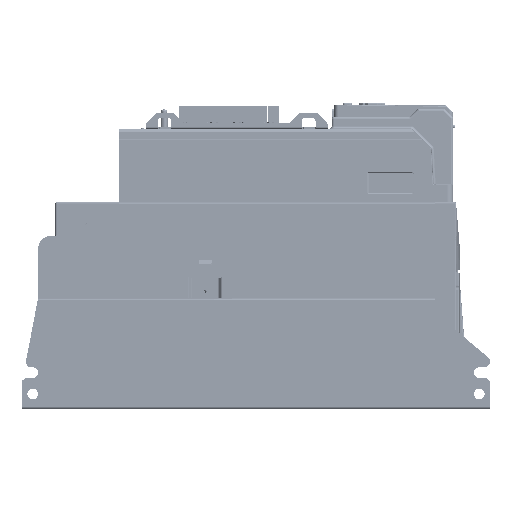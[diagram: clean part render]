
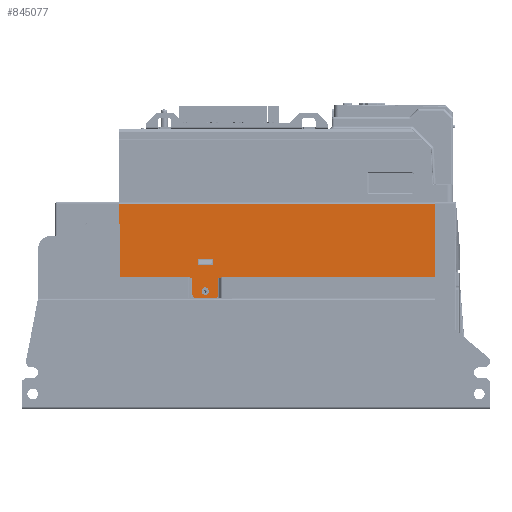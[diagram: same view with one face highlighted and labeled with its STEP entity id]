
A CAD part, left-side view. The second image highlights one B-rep face of the part: STEP entity #845077.
In plain terms, the highlighted planar face has unit normal (-1, 0, 0).
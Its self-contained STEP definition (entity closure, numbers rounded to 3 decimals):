
#844899=DIRECTION('',(0.,0.,-1.));
#844900=VECTOR('',#844899,12.5);
#844901=CARTESIAN_POINT('',(-73.75,0.5,-1.15));
#844902=LINE('',#844901,#844900);
#844903=CARTESIAN_POINT('',(-73.75,0.5,-13.65));
#844904=CARTESIAN_POINT('',(-73.75,0.506,-13.928));
#844905=CARTESIAN_POINT('',(-73.75,0.606,-14.438));
#844906=CARTESIAN_POINT('',(-73.75,1.049,-15.101));
#844907=CARTESIAN_POINT('',(-73.75,1.712,-15.544));
#844908=CARTESIAN_POINT('',(-73.75,2.222,-15.644));
#844909=CARTESIAN_POINT('',(-73.75,2.5,-15.65));
#844911=DIRECTION('',(0.,1.,0.));
#844912=VECTOR('',#844911,15.);
#844913=CARTESIAN_POINT('',(-73.75,2.5,-15.65));
#844914=LINE('',#844913,#844912);
#844915=CARTESIAN_POINT('',(-73.75,17.5,-15.65));
#844916=CARTESIAN_POINT('',(-73.75,17.778,-15.644));
#844917=CARTESIAN_POINT('',(-73.75,18.288,-15.544));
#844918=CARTESIAN_POINT('',(-73.75,18.951,-15.101));
#844919=CARTESIAN_POINT('',(-73.75,19.394,-14.438));
#844920=CARTESIAN_POINT('',(-73.75,19.494,-13.928));
#844921=CARTESIAN_POINT('',(-73.75,19.5,-13.65));
#844923=DIRECTION('',(0.,0.,1.));
#844924=VECTOR('',#844923,12.5);
#844925=CARTESIAN_POINT('',(-73.75,19.5,-13.65));
#844926=LINE('',#844925,#844924);
#844927=DIRECTION('',(0.,1.,0.));
#844928=VECTOR('',#844927,55.3);
#844929=CARTESIAN_POINT('',(-73.75,19.5,-1.15));
#844930=LINE('',#844929,#844928);
#844931=DIRECTION('',(0.,0.,1.));
#844932=VECTOR('',#844931,55.65);
#844933=CARTESIAN_POINT('',(-73.75,74.8,-1.15));
#844934=LINE('',#844933,#844932);
#844935=DIRECTION('',(0.,-1.,0.));
#844936=VECTOR('',#844935,236.8);
#844937=CARTESIAN_POINT('',(-73.75,74.8,54.5));
#844938=LINE('',#844937,#844936);
#844939=DIRECTION('',(0.,0.,-1.));
#844940=VECTOR('',#844939,55.65);
#844941=CARTESIAN_POINT('',(-73.75,-162.,54.5));
#844942=LINE('',#844941,#844940);
#844943=DIRECTION('',(0.,1.,0.));
#844944=VECTOR('',#844943,162.5);
#844945=CARTESIAN_POINT('',(-73.75,-162.,-1.15));
#844946=LINE('',#844945,#844944);
#844947=CARTESIAN_POINT('',(-73.75,10.,-13.325));
#844948=CARTESIAN_POINT('',(-73.75,9.701,-13.322));
#844949=CARTESIAN_POINT('',(-73.75,9.137,-13.234));
#844950=CARTESIAN_POINT('',(-73.75,8.355,-12.835));
#844951=CARTESIAN_POINT('',(-73.75,7.74,-12.221));
#844952=CARTESIAN_POINT('',(-73.75,7.341,-11.438));
#844953=CARTESIAN_POINT('',(-73.75,7.253,-10.874));
#844954=CARTESIAN_POINT('',(-73.75,7.25,-10.575));
#844956=CARTESIAN_POINT('',(-73.75,7.25,-10.575));
#844957=CARTESIAN_POINT('',(-73.75,7.253,-10.276));
#844958=CARTESIAN_POINT('',(-73.75,7.341,-9.712));
#844959=CARTESIAN_POINT('',(-73.75,7.74,-8.93));
#844960=CARTESIAN_POINT('',(-73.75,8.354,-8.315));
#844961=CARTESIAN_POINT('',(-73.75,9.137,-7.916));
#844962=CARTESIAN_POINT('',(-73.75,9.701,-7.828));
#844963=CARTESIAN_POINT('',(-73.75,10.,-7.825));
#844965=CARTESIAN_POINT('',(-73.75,10.,-7.825));
#844966=CARTESIAN_POINT('',(-73.75,10.299,-7.828));
#844967=CARTESIAN_POINT('',(-73.75,10.863,-7.916));
#844968=CARTESIAN_POINT('',(-73.75,11.645,-8.315));
#844969=CARTESIAN_POINT('',(-73.75,12.26,-8.929));
#844970=CARTESIAN_POINT('',(-73.75,12.659,-9.712));
#844971=CARTESIAN_POINT('',(-73.75,12.747,-10.276));
#844972=CARTESIAN_POINT('',(-73.75,12.75,-10.575));
#844974=CARTESIAN_POINT('',(-73.75,12.75,-10.575));
#844975=CARTESIAN_POINT('',(-73.75,12.747,-10.874));
#844976=CARTESIAN_POINT('',(-73.75,12.659,-11.438));
#844977=CARTESIAN_POINT('',(-73.75,12.26,-12.22));
#844978=CARTESIAN_POINT('',(-73.75,11.646,-12.835));
#844979=CARTESIAN_POINT('',(-73.75,10.863,-13.234));
#844980=CARTESIAN_POINT('',(-73.75,10.299,-13.322));
#844981=CARTESIAN_POINT('',(-73.75,10.,-13.325));
#844983=DIRECTION('',(0.,1.,0.));
#844984=VECTOR('',#844983,11.);
#844985=CARTESIAN_POINT('',(-73.75,4.5,13.35));
#844986=LINE('',#844985,#844984);
#844987=DIRECTION('',(0.,0.,-1.));
#844988=VECTOR('',#844987,4.75);
#844989=CARTESIAN_POINT('',(-73.75,15.5,13.35));
#844990=LINE('',#844989,#844988);
#844991=DIRECTION('',(0.,-1.,0.));
#844992=VECTOR('',#844991,11.);
#844993=CARTESIAN_POINT('',(-73.75,15.5,8.6));
#844994=LINE('',#844993,#844992);
#844995=DIRECTION('',(0.,0.,1.));
#844996=VECTOR('',#844995,4.75);
#844997=CARTESIAN_POINT('',(-73.75,4.5,8.6));
#844998=LINE('',#844997,#844996);
#844999=CARTESIAN_POINT('',(-73.75,0.5,-13.65));
#845000=CARTESIAN_POINT('',(-73.75,0.5,-1.15));
#845001=VERTEX_POINT('',#844999);
#845002=VERTEX_POINT('',#845000);
#845003=CARTESIAN_POINT('',(-73.75,-162.,-1.15));
#845004=VERTEX_POINT('',#845003);
#845005=CARTESIAN_POINT('',(-73.75,-162.,54.5));
#845006=VERTEX_POINT('',#845005);
#845007=CARTESIAN_POINT('',(-73.75,74.8,54.5));
#845008=VERTEX_POINT('',#845007);
#845009=CARTESIAN_POINT('',(-73.75,74.8,-1.15));
#845010=VERTEX_POINT('',#845009);
#845011=CARTESIAN_POINT('',(-73.75,19.5,-1.15));
#845012=VERTEX_POINT('',#845011);
#845013=CARTESIAN_POINT('',(-73.75,19.5,-13.65));
#845014=VERTEX_POINT('',#845013);
#845015=VERTEX_POINT('',#844915);
#845016=CARTESIAN_POINT('',(-73.75,2.5,-15.65));
#845017=VERTEX_POINT('',#845016);
#845018=VERTEX_POINT('',#844954);
#845019=VERTEX_POINT('',#844947);
#845020=VERTEX_POINT('',#844974);
#845021=VERTEX_POINT('',#844965);
#845022=CARTESIAN_POINT('',(-73.75,15.5,13.35));
#845023=CARTESIAN_POINT('',(-73.75,4.5,13.35));
#845024=VERTEX_POINT('',#845022);
#845025=VERTEX_POINT('',#845023);
#845026=CARTESIAN_POINT('',(-73.75,4.5,8.6));
#845027=VERTEX_POINT('',#845026);
#845028=CARTESIAN_POINT('',(-73.75,15.5,8.6));
#845029=VERTEX_POINT('',#845028);
#845030=CARTESIAN_POINT('',(-73.75,-186.039,61.874));
#845031=DIRECTION('',(-1.,0.,0.));
#845032=DIRECTION('',(0.,1.,0.));
#845033=AXIS2_PLACEMENT_3D('',#845030,#845031,#845032);
#845034=PLANE('',#845033);
#845036=ORIENTED_EDGE('',*,*,#845035,.T.);
#845038=ORIENTED_EDGE('',*,*,#845037,.T.);
#845040=ORIENTED_EDGE('',*,*,#845039,.T.);
#845042=ORIENTED_EDGE('',*,*,#845041,.T.);
#845044=ORIENTED_EDGE('',*,*,#845043,.T.);
#845046=ORIENTED_EDGE('',*,*,#845045,.T.);
#845048=ORIENTED_EDGE('',*,*,#845047,.T.);
#845050=ORIENTED_EDGE('',*,*,#845049,.T.);
#845052=ORIENTED_EDGE('',*,*,#845051,.T.);
#845054=ORIENTED_EDGE('',*,*,#845053,.T.);
#845055=EDGE_LOOP('',(#845036,#845038,#845040,#845042,#845044,#845046,#845048,
#845050,#845052,#845054));
#845056=FACE_OUTER_BOUND('',#845055,.F.);
#845058=ORIENTED_EDGE('',*,*,#845057,.T.);
#845060=ORIENTED_EDGE('',*,*,#845059,.T.);
#845062=ORIENTED_EDGE('',*,*,#845061,.T.);
#845064=ORIENTED_EDGE('',*,*,#845063,.T.);
#845065=EDGE_LOOP('',(#845058,#845060,#845062,#845064));
#845066=FACE_BOUND('',#845065,.F.);
#845068=ORIENTED_EDGE('',*,*,#845067,.T.);
#845070=ORIENTED_EDGE('',*,*,#845069,.T.);
#845072=ORIENTED_EDGE('',*,*,#845071,.T.);
#845074=ORIENTED_EDGE('',*,*,#845073,.T.);
#845075=EDGE_LOOP('',(#845068,#845070,#845072,#845074));
#845076=FACE_BOUND('',#845075,.F.);
#845077=ADVANCED_FACE('',(#845056,#845066,#845076),#845034,.T.);
#844910=B_SPLINE_CURVE_WITH_KNOTS('',3,(#844903,#844904,#844905,#844906,#844907,
#844908,#844909),.UNSPECIFIED.,.F.,.F.,(4,1,1,1,4),(0.,0.25,0.5,0.75,
1.),.UNSPECIFIED.);
#844922=B_SPLINE_CURVE_WITH_KNOTS('',3,(#844915,#844916,#844917,#844918,#844919,
#844920,#844921),.UNSPECIFIED.,.F.,.F.,(4,1,1,1,4),(0.,0.25,0.5,0.75,
1.),.UNSPECIFIED.);
#844955=B_SPLINE_CURVE_WITH_KNOTS('',3,(#844947,#844948,#844949,#844950,#844951,
#844952,#844953,#844954),.UNSPECIFIED.,.F.,.F.,(4,1,1,1,1,4),(0.,0.2,0.4,
0.6,0.8,1.),.UNSPECIFIED.);
#844964=B_SPLINE_CURVE_WITH_KNOTS('',3,(#844956,#844957,#844958,#844959,#844960,
#844961,#844962,#844963),.UNSPECIFIED.,.F.,.F.,(4,1,1,1,1,4),(0.,0.2,0.4,
0.6,0.8,1.),.UNSPECIFIED.);
#844973=B_SPLINE_CURVE_WITH_KNOTS('',3,(#844965,#844966,#844967,#844968,#844969,
#844970,#844971,#844972),.UNSPECIFIED.,.F.,.F.,(4,1,1,1,1,4),(0.,0.2,0.4,
0.6,0.8,1.),.UNSPECIFIED.);
#844982=B_SPLINE_CURVE_WITH_KNOTS('',3,(#844974,#844975,#844976,#844977,#844978,
#844979,#844980,#844981),.UNSPECIFIED.,.F.,.F.,(4,1,1,1,1,4),(0.,0.2,0.4,
0.6,0.8,1.),.UNSPECIFIED.);
#845035=EDGE_CURVE('',#845002,#845001,#844902,.T.);
#845037=EDGE_CURVE('',#845001,#845017,#844910,.T.);
#845039=EDGE_CURVE('',#845017,#845015,#844914,.T.);
#845041=EDGE_CURVE('',#845015,#845014,#844922,.T.);
#845043=EDGE_CURVE('',#845014,#845012,#844926,.T.);
#845045=EDGE_CURVE('',#845012,#845010,#844930,.T.);
#845047=EDGE_CURVE('',#845010,#845008,#844934,.T.);
#845049=EDGE_CURVE('',#845008,#845006,#844938,.T.);
#845051=EDGE_CURVE('',#845006,#845004,#844942,.T.);
#845053=EDGE_CURVE('',#845004,#845002,#844946,.T.);
#845057=EDGE_CURVE('',#845019,#845018,#844955,.T.);
#845059=EDGE_CURVE('',#845018,#845021,#844964,.T.);
#845061=EDGE_CURVE('',#845021,#845020,#844973,.T.);
#845063=EDGE_CURVE('',#845020,#845019,#844982,.T.);
#845067=EDGE_CURVE('',#845025,#845024,#844986,.T.);
#845069=EDGE_CURVE('',#845024,#845029,#844990,.T.);
#845071=EDGE_CURVE('',#845029,#845027,#844994,.T.);
#845073=EDGE_CURVE('',#845027,#845025,#844998,.T.);
